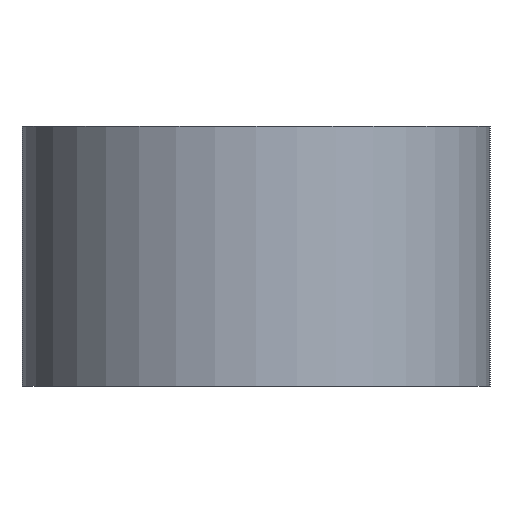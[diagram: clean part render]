
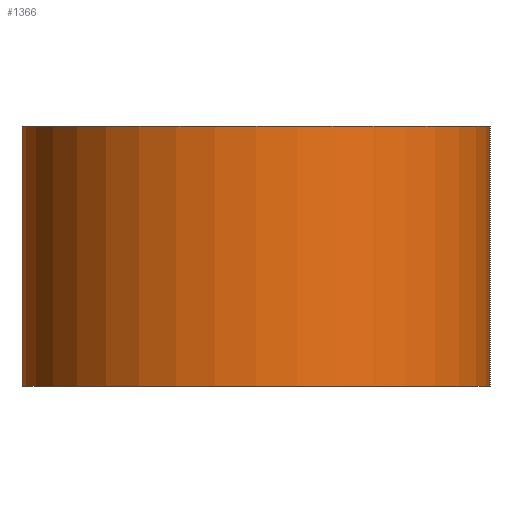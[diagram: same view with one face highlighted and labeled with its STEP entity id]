
A CAD part, left-side view. The second image highlights one B-rep face of the part: STEP entity #1366.
In plain terms, the highlighted cylindrical face has radius 3.6 mm (diameter 7.2 mm), a partial arc.
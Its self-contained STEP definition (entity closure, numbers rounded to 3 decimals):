
#21=CYLINDRICAL_SURFACE('',#1548,3.6);
#91=CIRCLE('',#1472,3.6);
#139=CIRCLE('',#1521,3.6);
#317=ORIENTED_EDGE('',*,*,#690,.T.);
#318=ORIENTED_EDGE('',*,*,#728,.F.);
#319=ORIENTED_EDGE('',*,*,#620,.F.);
#320=ORIENTED_EDGE('',*,*,#725,.T.);
#620=EDGE_CURVE('',#829,#831,#91,.T.);
#690=EDGE_CURVE('',#901,#900,#139,.T.);
#725=EDGE_CURVE('',#829,#901,#983,.T.);
#728=EDGE_CURVE('',#831,#900,#986,.T.);
#829=VERTEX_POINT('',#2149);
#831=VERTEX_POINT('',#2152);
#900=VERTEX_POINT('',#2291);
#901=VERTEX_POINT('',#2293);
#983=LINE('',#2362,#1095);
#986=LINE('',#2367,#1098);
#1095=VECTOR('',#1862,1000.);
#1098=VECTOR('',#1869,1000.);
#1174=EDGE_LOOP('',(#317,#318,#319,#320));
#1260=FACE_BOUND('',#1174,.T.);
#1366=ADVANCED_FACE('',(#1260),#21,.T.);
#1472=AXIS2_PLACEMENT_3D('',#2151,#1681,#1682);
#1521=AXIS2_PLACEMENT_3D('',#2292,#1801,#1802);
#1548=AXIS2_PLACEMENT_3D('',#2368,#1870,#1871);
#1681=DIRECTION('',(0.,0.,1.));
#1682=DIRECTION('',(1.,0.,0.));
#1801=DIRECTION('',(0.,0.,1.));
#1802=DIRECTION('',(1.,0.,0.));
#1862=DIRECTION('',(0.,0.,-1.));
#1869=DIRECTION('',(0.,0.,-1.));
#1870=DIRECTION('',(0.,0.,-1.));
#1871=DIRECTION('',(1.,0.,0.));
#2149=CARTESIAN_POINT('',(-8.,3.6,4.));
#2151=CARTESIAN_POINT('',(-8.,0.,4.));
#2152=CARTESIAN_POINT('',(-8.,-3.6,4.));
#2291=CARTESIAN_POINT('',(-8.,-3.6,0.));
#2292=CARTESIAN_POINT('',(-8.,0.,0.));
#2293=CARTESIAN_POINT('',(-8.,3.6,0.));
#2362=CARTESIAN_POINT('',(-8.,3.6,4.));
#2367=CARTESIAN_POINT('',(-8.,-3.6,4.));
#2368=CARTESIAN_POINT('',(-8.,0.,4.));
